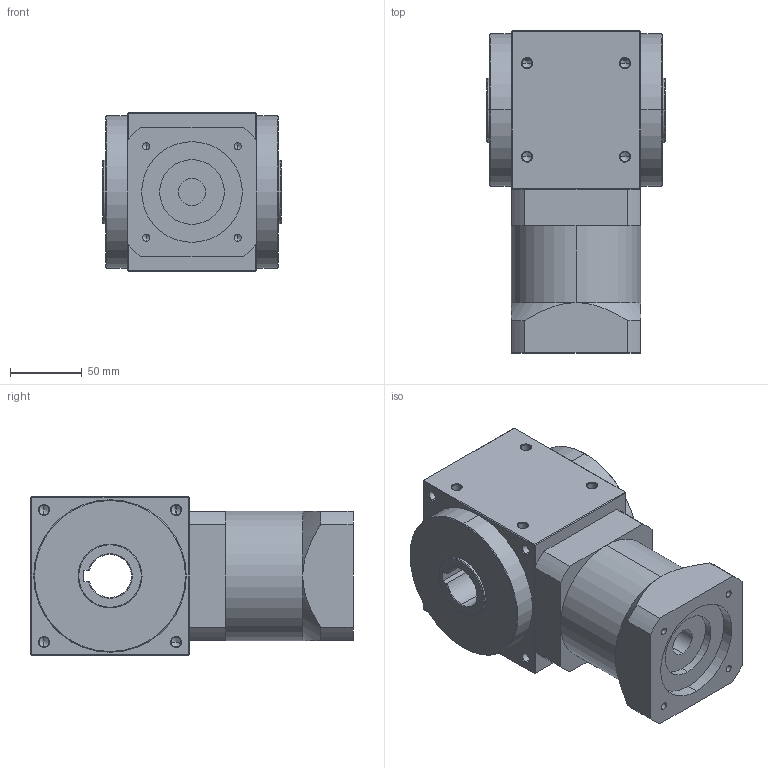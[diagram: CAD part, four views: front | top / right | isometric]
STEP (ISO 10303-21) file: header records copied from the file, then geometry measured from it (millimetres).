
FILE_DESCRIPTION (( 'STEP AP214' ), '1' );
FILE_NAME ('RXW110AS-L2-CR-19-70-90-m6.STEP', '2020-11-24T05:17:50', ( '微软用户' ), ( '微软中国' ), 'SwSTEP 2.0', 'SolidWorks 2014', '' );
FILE_SCHEMA (( 'AUTOMOTIVE_DESIGN' ));
Length unit declared in the file: millimetre
Products named in the file (2): RXW110AS-L2-CR-19-70-90-m6
Bounding box: 124 x 224 x 110 mm (x, y, z)
Volume: 2007715 mm3; surface area: 152688.5 mm2
Topology: 2 solids, 2 shells, 234 faces, 558 edges, 304 vertices
Faces by surface type: cone 106, cylinder 77, plane 51
Entity records: 8494 total; most frequent: CARTESIAN_POINT 1238, DIRECTION 1178, ORIENTED_EDGE 1020, EDGE_CURVE 510, AXIS2_PLACEMENT_3D 460, VERTEX_POINT 304, EDGE_LOOP 268, VECTOR 258
